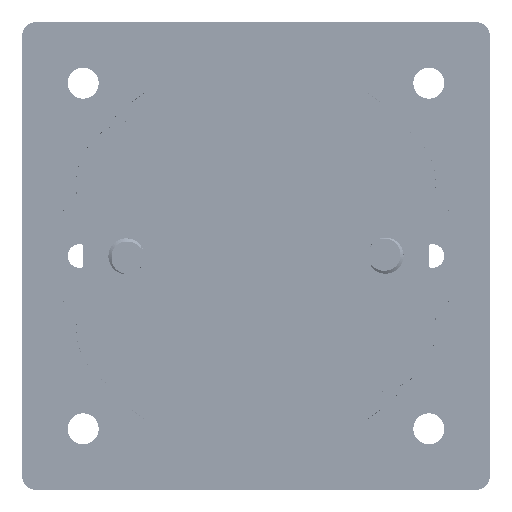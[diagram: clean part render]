
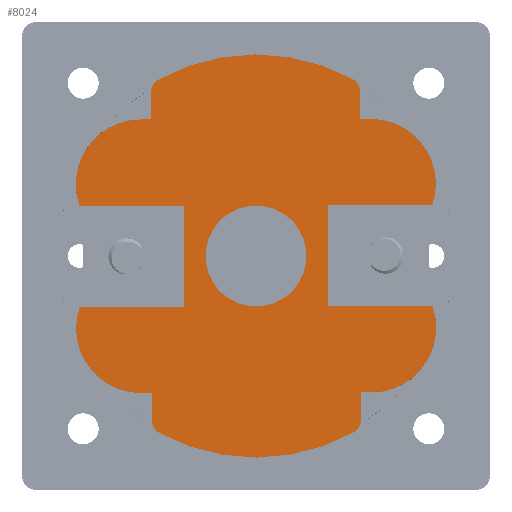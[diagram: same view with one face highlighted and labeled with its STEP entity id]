
A CAD part, front view. The second image highlights one B-rep face of the part: STEP entity #8024.
In plain terms, the highlighted planar face has unit normal (0, -1, 0).
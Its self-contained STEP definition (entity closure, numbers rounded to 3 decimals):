
#1171=LINE('',#85789,#4252);
#1176=LINE('',#85800,#4257);
#1178=LINE('',#85804,#4259);
#1182=LINE('',#85816,#4263);
#1187=LINE('',#85827,#4268);
#1189=LINE('',#85831,#4270);
#1194=LINE('',#85866,#4275);
#1246=LINE('',#85974,#4327);
#1300=LINE('',#86098,#4381);
#1302=LINE('',#86112,#4383);
#1308=LINE('',#86131,#4389);
#1359=LINE('',#86233,#4440);
#1413=LINE('',#86357,#4494);
#1416=LINE('',#86363,#4497);
#4252=VECTOR('',#46904,1.);
#4257=VECTOR('',#46911,1.);
#4259=VECTOR('',#46915,1.);
#4263=VECTOR('',#46927,1.);
#4268=VECTOR('',#46934,1.);
#4270=VECTOR('',#46938,1.);
#4275=VECTOR('',#46951,1.);
#4327=VECTOR('',#47011,1.);
#4381=VECTOR('',#47089,1.);
#4383=VECTOR('',#47093,1.);
#4389=VECTOR('',#47113,1.);
#4440=VECTOR('',#47166,1.);
#4494=VECTOR('',#47244,1.);
#4497=VECTOR('',#47249,1.);
#7212=FACE_BOUND('',#13793,.T.);
#7213=FACE_BOUND('',#13794,.T.);
#8024=ADVANCED_FACE('',(#7212,#7213),#10253,.F.);
#10253=PLANE('',#42875);
#13793=EDGE_LOOP('',(#19016,#19017,#19018,#19019,#19020,#19021,#19022,#19023,
#19024,#19025,#19026,#19027,#19028,#19029,#19030,#19031,#19032,#19033,#19034,
#19035,#19036,#19037,#19038,#19039,#19040));
#13794=EDGE_LOOP('',(#19041));
#16351=CIRCLE('',#42816,7.);
#16357=CIRCLE('',#42832,8.96);
#16360=CIRCLE('',#42837,2.);
#16362=CIRCLE('',#42840,28.);
#16365=CIRCLE('',#42844,2.);
#16366=CIRCLE('',#42848,9.);
#16368=CIRCLE('',#42851,9.);
#16372=CIRCLE('',#42858,2.);
#16374=CIRCLE('',#42861,28.);
#16377=CIRCLE('',#42865,2.);
#16378=CIRCLE('',#42869,9.);
#16380=CIRCLE('',#42872,9.);
#19016=ORIENTED_EDGE('',*,*,#35327,.F.);
#19017=ORIENTED_EDGE('',*,*,#35472,.T.);
#19018=ORIENTED_EDGE('',*,*,#35471,.T.);
#19019=ORIENTED_EDGE('',*,*,#35467,.T.);
#19020=ORIENTED_EDGE('',*,*,#35416,.T.);
#19021=ORIENTED_EDGE('',*,*,#35412,.T.);
#19022=ORIENTED_EDGE('',*,*,#35409,.T.);
#19023=ORIENTED_EDGE('',*,*,#35405,.T.);
#19024=ORIENTED_EDGE('',*,*,#35354,.T.);
#19025=ORIENTED_EDGE('',*,*,#35351,.T.);
#19026=ORIENTED_EDGE('',*,*,#35601,.T.);
#19027=ORIENTED_EDGE('',*,*,#35338,.F.);
#19028=ORIENTED_EDGE('',*,*,#35333,.F.);
#19029=ORIENTED_EDGE('',*,*,#35340,.F.);
#19030=ORIENTED_EDGE('',*,*,#35598,.T.);
#19031=ORIENTED_EDGE('',*,*,#35597,.T.);
#19032=ORIENTED_EDGE('',*,*,#35594,.T.);
#19033=ORIENTED_EDGE('',*,*,#35543,.T.);
#19034=ORIENTED_EDGE('',*,*,#35539,.T.);
#19035=ORIENTED_EDGE('',*,*,#35536,.T.);
#19036=ORIENTED_EDGE('',*,*,#35532,.T.);
#19037=ORIENTED_EDGE('',*,*,#35481,.T.);
#19038=ORIENTED_EDGE('',*,*,#35475,.T.);
#19039=ORIENTED_EDGE('',*,*,#35325,.F.);
#19040=ORIENTED_EDGE('',*,*,#35320,.F.);
#19041=ORIENTED_EDGE('',*,*,#35319,.F.);
#30958=VERTEX_POINT('',#85787);
#30959=VERTEX_POINT('',#85790);
#30960=VERTEX_POINT('',#85791);
#30964=VERTEX_POINT('',#85801);
#30965=VERTEX_POINT('',#85805);
#30969=VERTEX_POINT('',#85817);
#30970=VERTEX_POINT('',#85818);
#30974=VERTEX_POINT('',#85828);
#30975=VERTEX_POINT('',#85832);
#30979=VERTEX_POINT('',#85847);
#30984=VERTEX_POINT('',#85865);
#30985=VERTEX_POINT('',#85869);
#30987=VERTEX_POINT('',#85875);
#31037=VERTEX_POINT('',#85977);
#31040=VERTEX_POINT('',#85985);
#31042=VERTEX_POINT('',#85991);
#31045=VERTEX_POINT('',#85999);
#31095=VERTEX_POINT('',#86104);
#31099=VERTEX_POINT('',#86120);
#31102=VERTEX_POINT('',#86128);
#31104=VERTEX_POINT('',#86134);
#31154=VERTEX_POINT('',#86236);
#31157=VERTEX_POINT('',#86244);
#31159=VERTEX_POINT('',#86250);
#31162=VERTEX_POINT('',#86258);
#31212=VERTEX_POINT('',#86360);
#35319=EDGE_CURVE('',#30958,#30958,#16351,.T.);
#35320=EDGE_CURVE('',#30959,#30960,#1171,.T.);
#35325=EDGE_CURVE('',#30960,#30964,#1176,.T.);
#35327=EDGE_CURVE('',#30965,#30959,#1178,.T.);
#35333=EDGE_CURVE('',#30969,#30970,#1182,.T.);
#35338=EDGE_CURVE('',#30970,#30974,#1187,.T.);
#35340=EDGE_CURVE('',#30975,#30969,#1189,.T.);
#35351=EDGE_CURVE('',#30979,#30984,#1194,.T.);
#35354=EDGE_CURVE('',#30985,#30979,#16357,.T.);
#35405=EDGE_CURVE('',#30987,#30985,#1246,.T.);
#35409=EDGE_CURVE('',#31037,#30987,#16360,.T.);
#35412=EDGE_CURVE('',#31040,#31037,#16362,.T.);
#35416=EDGE_CURVE('',#31042,#31040,#16365,.T.);
#35467=EDGE_CURVE('',#31045,#31042,#1300,.T.);
#35471=EDGE_CURVE('',#31095,#31045,#1302,.T.);
#35472=EDGE_CURVE('',#30965,#31095,#16366,.T.);
#35475=EDGE_CURVE('',#31099,#30964,#16368,.T.);
#35481=EDGE_CURVE('',#31102,#31099,#1308,.T.);
#35532=EDGE_CURVE('',#31104,#31102,#1359,.T.);
#35536=EDGE_CURVE('',#31154,#31104,#16372,.T.);
#35539=EDGE_CURVE('',#31157,#31154,#16374,.T.);
#35543=EDGE_CURVE('',#31159,#31157,#16377,.T.);
#35594=EDGE_CURVE('',#31162,#31159,#1413,.T.);
#35597=EDGE_CURVE('',#31212,#31162,#1416,.T.);
#35598=EDGE_CURVE('',#30975,#31212,#16378,.T.);
#35601=EDGE_CURVE('',#30984,#30974,#16380,.T.);
#42816=AXIS2_PLACEMENT_3D('',#85786,#46900,#46901);
#42832=AXIS2_PLACEMENT_3D('',#85872,#46957,#46958);
#42837=AXIS2_PLACEMENT_3D('',#85982,#47019,#47020);
#42840=AXIS2_PLACEMENT_3D('',#85988,#47026,#47027);
#42844=AXIS2_PLACEMENT_3D('',#85996,#47035,#47036);
#42848=AXIS2_PLACEMENT_3D('',#86114,#47096,#47097);
#42851=AXIS2_PLACEMENT_3D('',#86119,#47103,#47104);
#42858=AXIS2_PLACEMENT_3D('',#86241,#47174,#47175);
#42861=AXIS2_PLACEMENT_3D('',#86247,#47181,#47182);
#42865=AXIS2_PLACEMENT_3D('',#86255,#47190,#47191);
#42869=AXIS2_PLACEMENT_3D('',#86365,#47252,#47253);
#42872=AXIS2_PLACEMENT_3D('',#86370,#47259,#47260);
#42875=AXIS2_PLACEMENT_3D('',#86375,#47266,#47267);
#46900=DIRECTION('',(0.,-1.,0.));
#46901=DIRECTION('',(-1.,0.,-0.003));
#46904=DIRECTION('',(-0.003,0.,1.));
#46911=DIRECTION('',(-1.,0.,-0.003));
#46915=DIRECTION('',(1.,0.,0.003));
#46927=DIRECTION('',(0.003,0.,-1.));
#46934=DIRECTION('',(1.,0.,0.003));
#46938=DIRECTION('',(-1.,0.,-0.003));
#46951=DIRECTION('',(1.,0.,0.003));
#46957=DIRECTION('',(0.,-1.,0.));
#46958=DIRECTION('',(0.,0.,-1.));
#47011=DIRECTION('',(-0.003,0.,1.));
#47019=DIRECTION('',(0.,-1.,0.));
#47020=DIRECTION('',(1.,0.,0.003));
#47026=DIRECTION('',(0.,-1.,0.));
#47027=DIRECTION('',(1.,0.,0.003));
#47035=DIRECTION('',(0.,-1.,0.));
#47036=DIRECTION('',(1.,0.,0.003));
#47089=DIRECTION('',(0.003,0.,-1.));
#47093=DIRECTION('',(1.,0.,0.003));
#47096=DIRECTION('',(0.,-1.,0.));
#47097=DIRECTION('',(-0.89,0.,0.456));
#47103=DIRECTION('',(0.,-1.,0.));
#47104=DIRECTION('',(-1.,0.,-0.003));
#47113=DIRECTION('',(-1.,0.,-0.003));
#47166=DIRECTION('',(0.003,0.,-1.));
#47174=DIRECTION('',(0.,-1.,0.));
#47175=DIRECTION('',(1.,0.,0.003));
#47181=DIRECTION('',(0.,-1.,0.));
#47182=DIRECTION('',(1.,0.,0.003));
#47190=DIRECTION('',(0.,-1.,0.));
#47191=DIRECTION('',(1.,0.,0.003));
#47244=DIRECTION('',(-0.003,0.,1.));
#47249=DIRECTION('',(-1.,0.,-0.003));
#47252=DIRECTION('',(0.,-1.,0.));
#47253=DIRECTION('',(1.,0.,0.003));
#47259=DIRECTION('',(0.,-1.,0.));
#47260=DIRECTION('',(0.,0.,-1.));
#47266=DIRECTION('',(0.,1.,0.));
#47267=DIRECTION('',(0.,0.,1.));
#85786=CARTESIAN_POINT('',(0.,-189.1,0.));
#85787=CARTESIAN_POINT('',(-7.,-189.1,-0.018));
#85789=CARTESIAN_POINT('',(-9.982,-189.1,-7.026));
#85790=CARTESIAN_POINT('',(-9.982,-189.1,-7.026));
#85791=CARTESIAN_POINT('',(-10.018,-189.1,6.974));
#85800=CARTESIAN_POINT('',(-10.018,-189.1,6.974));
#85801=CARTESIAN_POINT('',(-24.503,-189.1,6.937));
#85804=CARTESIAN_POINT('',(-34.164,-189.1,-7.088));
#85805=CARTESIAN_POINT('',(-24.468,-189.1,-7.063));
#85816=CARTESIAN_POINT('',(9.982,-189.1,7.026));
#85817=CARTESIAN_POINT('',(9.982,-189.1,7.026));
#85818=CARTESIAN_POINT('',(10.018,-189.1,-6.974));
#85827=CARTESIAN_POINT('',(10.018,-189.1,-6.974));
#85828=CARTESIAN_POINT('',(24.503,-189.1,-6.937));
#85831=CARTESIAN_POINT('',(34.164,-189.1,7.088));
#85832=CARTESIAN_POINT('',(24.467,-189.1,7.063));
#85847=CARTESIAN_POINT('',(15.978,-189.1,-18.959));
#85865=CARTESIAN_POINT('',(16.119,-189.1,-18.958));
#85866=CARTESIAN_POINT('',(23.752,-189.1,-18.938));
#85869=CARTESIAN_POINT('',(14.548,-189.1,-18.837));
#85872=CARTESIAN_POINT('',(16.02,-189.1,-9.999));
#85875=CARTESIAN_POINT('',(14.558,-189.1,-22.761));
#85974=CARTESIAN_POINT('',(14.558,-189.1,-22.761));
#85977=CARTESIAN_POINT('',(13.525,-189.1,-24.517));
#85982=CARTESIAN_POINT('',(12.558,-189.1,-22.766));
#85985=CARTESIAN_POINT('',(-13.398,-189.1,-24.586));
#85988=CARTESIAN_POINT('',(0.,-189.1,0.));
#85991=CARTESIAN_POINT('',(-14.441,-189.1,-22.835));
#85996=CARTESIAN_POINT('',(-12.441,-189.1,-22.83));
#85999=CARTESIAN_POINT('',(-14.451,-189.1,-19.037));
#86098=CARTESIAN_POINT('',(-14.451,-189.1,-19.037));
#86104=CARTESIAN_POINT('',(-15.951,-189.1,-19.041));
#86112=CARTESIAN_POINT('',(23.753,-189.1,-18.934));
#86114=CARTESIAN_POINT('',(-15.974,-189.1,-10.041));
#86119=CARTESIAN_POINT('',(-16.026,-189.1,9.959));
#86120=CARTESIAN_POINT('',(-16.049,-189.1,18.959));
#86128=CARTESIAN_POINT('',(-14.549,-189.1,18.963));
#86131=CARTESIAN_POINT('',(-14.549,-189.1,18.963));
#86134=CARTESIAN_POINT('',(-14.558,-189.1,22.761));
#86233=CARTESIAN_POINT('',(-14.558,-189.1,22.761));
#86236=CARTESIAN_POINT('',(-13.525,-189.1,24.517));
#86241=CARTESIAN_POINT('',(-12.558,-189.1,22.766));
#86244=CARTESIAN_POINT('',(13.398,-189.1,24.586));
#86247=CARTESIAN_POINT('',(0.,-189.1,0.));
#86250=CARTESIAN_POINT('',(14.441,-189.1,22.835));
#86255=CARTESIAN_POINT('',(12.441,-189.1,22.83));
#86258=CARTESIAN_POINT('',(14.451,-189.1,19.037));
#86357=CARTESIAN_POINT('',(14.451,-189.1,19.037));
#86360=CARTESIAN_POINT('',(15.951,-189.1,19.041));
#86363=CARTESIAN_POINT('',(15.951,-189.1,19.041));
#86365=CARTESIAN_POINT('',(15.974,-189.1,10.041));
#86370=CARTESIAN_POINT('',(16.026,-189.1,-9.959));
#86375=CARTESIAN_POINT('',(23.741,-189.1,-14.593));
